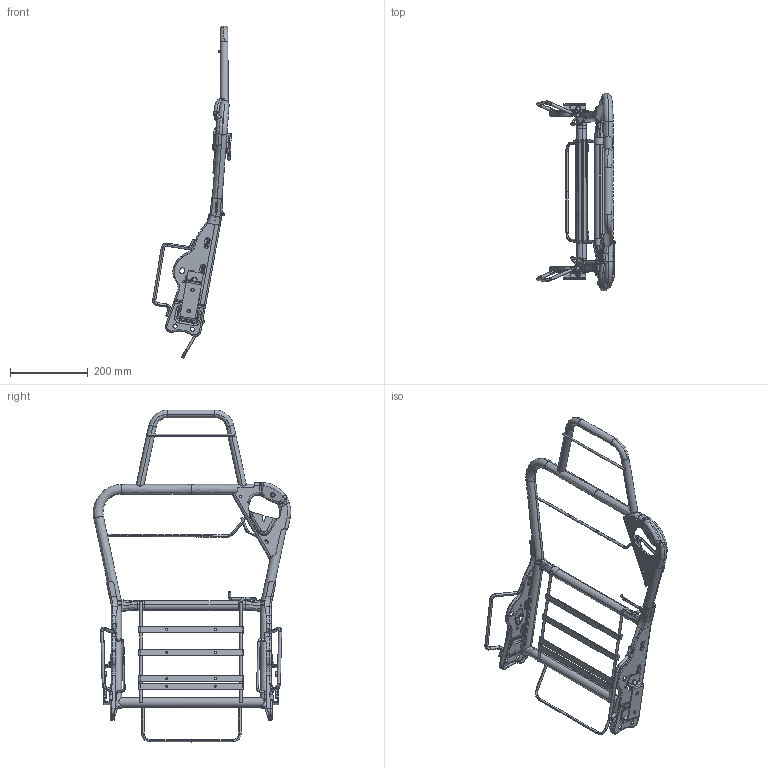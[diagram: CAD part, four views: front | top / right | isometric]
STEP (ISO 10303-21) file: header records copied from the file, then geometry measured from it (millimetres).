
FILE_DESCRIPTION(('CATIA V5 STEP Exchange'),'2;1');
FILE_NAME('C:\Users\Administrator\Desktop\J6G样件数据\主驾\靠背骨架总成.stp','2023-04-10T06:48:59+00:00',('none'),('none'),'CATIA Version 5 Release 20 GA (IN-10)','CATIA V5 STEP AP214','none');
FILE_SCHEMA(('AUTOMOTIVE_DESIGN { 1 0 10303 214 1 1 1 1 }'));
Length unit declared in the file: millimetre
Products named in the file (3): SHT0015038; SHT0012224; 零件1
Assembly tree (2 placements, depth 2):
  SHT0015038
    SHT0012224
    零件1
Bounding box: 202.62 x 508.94 x 855.69 mm (x, y, z)
Volume: 743640.8 mm3; surface area: 699674 mm2
Topology: 27 solids, 27 shells, 1704 faces, 4363 edges, 2716 vertices
Faces by surface type: cylinder 660, plane 389, bspline 305, torus 208, revolution 58, cone 39, extrusion 29, sphere 16
Entity records: 84009 total; most frequent: CARTESIAN_POINT 47741, ORIENTED_EDGE 8692, DIRECTION 5068, EDGE_CURVE 4346, VERTEX_POINT 2714, AXIS2_PLACEMENT_3D 2269, EDGE_LOOP 1824, ADVANCED_FACE 1704
